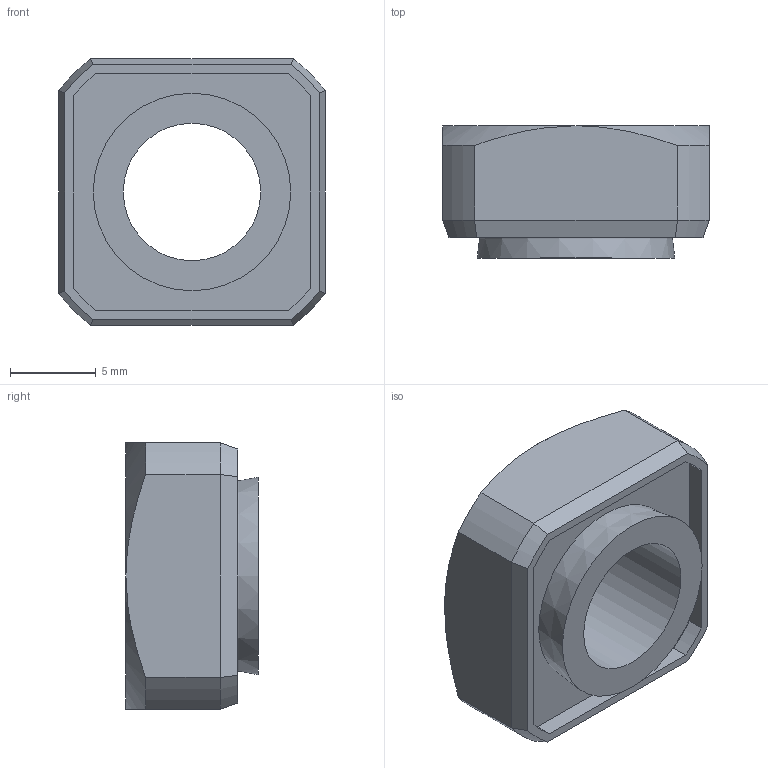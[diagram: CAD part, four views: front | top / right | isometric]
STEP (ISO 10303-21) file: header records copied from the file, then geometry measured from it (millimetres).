
FILE_DESCRIPTION(/* description */ (''),/* implementation_level */ '2;1');
FILE_NAME(/* name */ 'D:\Sukhmani\Fastit\KP Nut\KP 8-H.stp',/* time_stamp */ '2024-03-14T12:24:39+06:00',/* author */ ('edc.sukhmani'),/* organization */ (''),/* preprocessor_version */ 'ST-DEVELOPER v18.1',/* originating_system */ 'Autodesk Inventor 2022',/* authorisation */ '');
FILE_SCHEMA (('AUTOMOTIVE_DESIGN { 1 0 10303 214 3 1 1 }'));
Length unit declared in the file: millimetre
Products named in the file (1): KP 8-H
Bounding box: 15.52 x 7.7 x 15.52 mm (x, y, z)
Volume: 1124.9 mm3; surface area: 1025.8 mm2
Topology: 1 solids, 1 shells, 36 faces, 84 edges, 52 vertices
Faces by surface type: plane 16, cone 10, cylinder 10
Full cylindrical faces by diameter (mm): 8 x1, 9.5 x1
Entity records: 1055 total; most frequent: CARTESIAN_POINT 205, DIRECTION 174, ORIENTED_EDGE 168, EDGE_CURVE 84, AXIS2_PLACEMENT_3D 69, VERTEX_POINT 52, EDGE_LOOP 40, FACE_OUTER_BOUND 36
